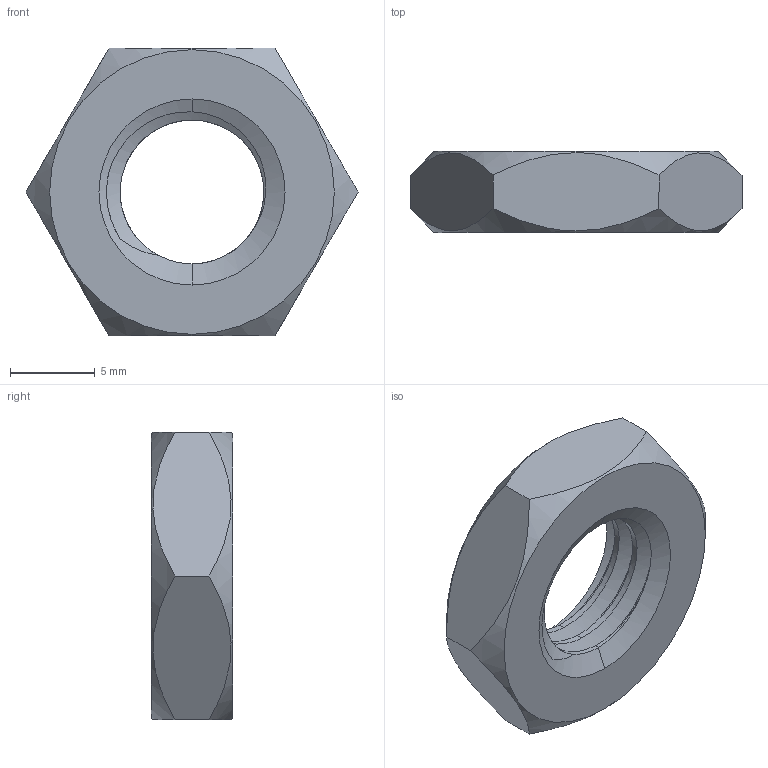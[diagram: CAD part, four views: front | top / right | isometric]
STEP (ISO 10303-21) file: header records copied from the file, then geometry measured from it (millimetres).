
FILE_DESCRIPTION (( 'STEP AP203' ), '1' );
FILE_NAME ('TANM-304-M10.STEP', '2026-08-25T09:20:31', ( '' ), ( '' ), 'SwSTEP 2.0', 'SolidWorks 2020', '' );
FILE_SCHEMA (( 'CONFIG_CONTROL_DESIGN' ));
Length unit declared in the file: millimetre
Products named in the file (1): TANM-304-M10
Bounding box: 19.63 x 4.8 x 17 mm (x, y, z)
Volume: 845.7 mm3; surface area: 805.8 mm2
Topology: 1 solids, 1 shells, 26 faces, 70 edges, 46 vertices
Faces by surface type: cone 8, plane 8, cylinder 7, bspline 3
Entity records: 2386 total; most frequent: CARTESIAN_POINT 1734, ORIENTED_EDGE 140, DIRECTION 92, EDGE_CURVE 70, VERTEX_POINT 46, AXIS2_PLACEMENT_3D 36, B_SPLINE_CURVE_WITH_KNOTS 30, EDGE_LOOP 28
